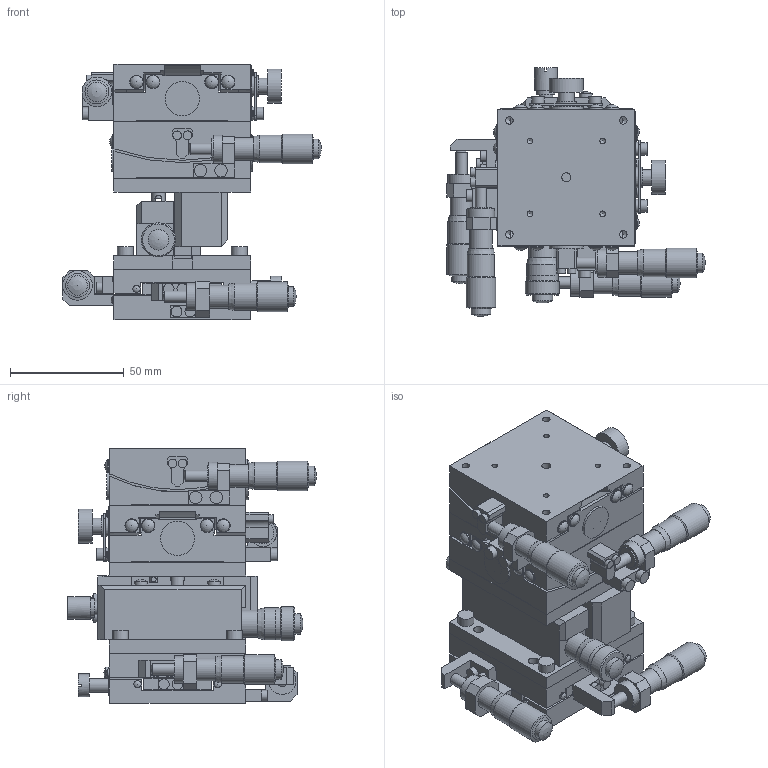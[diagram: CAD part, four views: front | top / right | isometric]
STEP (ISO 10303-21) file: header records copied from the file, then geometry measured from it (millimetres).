
FILE_DESCRIPTION( ( 'STEP AP203' ), '1' );
FILE_NAME( 'C:/3D-Trans/3D_B270-60C-L+080905.step', '2008-09-05T04:46:49', ( ' ' ), ( ' ' ), 'XStep 1.0', ' ', ' ' );
FILE_SCHEMA( ( 'CONFIG_CONTROL_DESIGN' ) );
Length unit declared in the file: millimetre
Products named in the file (15): 1; 2; 3; 4; 5; 6; 7; 8; 9; 10; 11; 12; 13; 14; 15
Bounding box: 113.5 x 109.3 x 112 mm (x, y, z)
Volume: 354855.6 mm3; surface area: 145992.1 mm2
Topology: 15 solids, 15 shells, 1053 faces, 2684 edges, 1758 vertices
Faces by surface type: plane 563, cylinder 391, sphere 42, cone 40, torus 16, bspline 1
Full cylindrical faces by diameter (mm): 2 x6, 2.2 x2, 2.5 x26, 3 x15, 3.2 x8, 3.3 x38, 3.5 x2, 3.8 x4, 4 x11, 4.5 x8, 4.7 x8, 5 x18, 5.5 x8, 5.6 x4, 5.7 x16, 6 x28, 6.35 x1, 6.5 x1, 7 x6, 8 x7, 8.6 x4, 9 x6, 9.5 x3, 10 x10, 10.5 x4, 12 x10, 13 x6, 13.6 x1, 14 x1, 15 x9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
Entity records: 29864 total; most frequent: CARTESIAN_POINT 5705, DIRECTION 5024, ORIENTED_EDGE 4178, EDGE_CURVE 2089, AXIS2_PLACEMENT_3D 1898, EDGE_LOOP 1639, VERTEX_POINT 1558, FACE_OUTER_BOUND 1340
